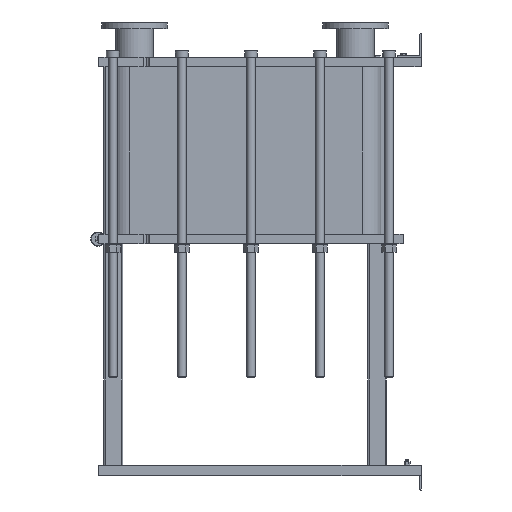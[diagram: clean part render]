
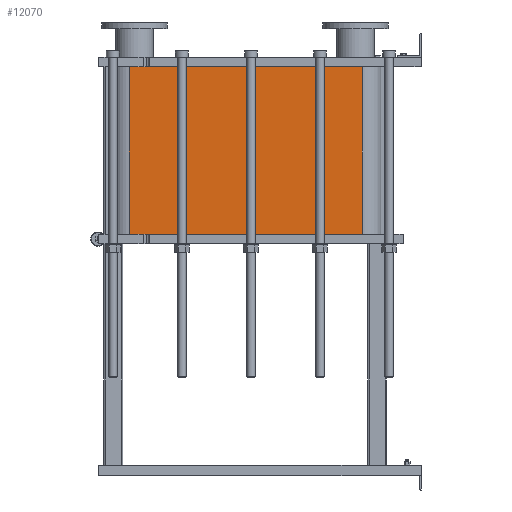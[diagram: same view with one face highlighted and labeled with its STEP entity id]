
A CAD part, left-side view. The second image highlights one B-rep face of the part: STEP entity #12070.
In plain terms, the highlighted planar face has unit normal (-1, 0, 0).
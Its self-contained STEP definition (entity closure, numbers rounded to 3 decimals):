
#1064=LINE('',#21140,#2164);
#1065=LINE('',#21144,#2165);
#1066=LINE('',#21146,#2166);
#1067=LINE('',#21147,#2167);
#2164=VECTOR('',#15790,10.);
#2165=VECTOR('',#15795,10.);
#2166=VECTOR('',#15796,10.);
#2167=VECTOR('',#15797,10.);
#3304=FACE_OUTER_BOUND('',#4091,.T.);
#4091=EDGE_LOOP('',(#9793,#9794,#9795,#9796));
#5677=VERTEX_POINT('',#21137);
#5678=VERTEX_POINT('',#21139);
#5679=VERTEX_POINT('',#21143);
#5680=VERTEX_POINT('',#21145);
#7118=EDGE_CURVE('',#5678,#5677,#1064,.T.);
#7120=EDGE_CURVE('',#5677,#5679,#1065,.T.);
#7121=EDGE_CURVE('',#5680,#5679,#1066,.T.);
#7122=EDGE_CURVE('',#5680,#5678,#1067,.T.);
#9793=ORIENTED_EDGE('',*,*,#7120,.T.);
#9794=ORIENTED_EDGE('',*,*,#7121,.F.);
#9795=ORIENTED_EDGE('',*,*,#7122,.T.);
#9796=ORIENTED_EDGE('',*,*,#7118,.T.);
#11441=PLANE('',#13191);
#12070=ADVANCED_FACE('',(#3304),#11441,.T.);
#13191=AXIS2_PLACEMENT_3D('',#21142,#15793,#15794);
#15790=DIRECTION('',(0.,0.,-1.));
#15793=DIRECTION('center_axis',(-1.,0.,0.));
#15794=DIRECTION('ref_axis',(0.,1.,0.));
#15795=DIRECTION('',(0.,-1.,0.));
#15796=DIRECTION('',(0.,0.,-1.));
#15797=DIRECTION('',(0.,1.,0.));
#21137=CARTESIAN_POINT('',(-248.152,1243.818,-714.15));
#21139=CARTESIAN_POINT('',(-248.152,1243.818,0.));
#21140=CARTESIAN_POINT('',(-248.152,1243.818,0.));
#21142=CARTESIAN_POINT('Origin',(-248.152,251.818,0.));
#21143=CARTESIAN_POINT('',(-248.152,251.818,-714.15));
#21144=CARTESIAN_POINT('',(-248.152,499.818,-714.15));
#21145=CARTESIAN_POINT('',(-248.152,251.818,0.));
#21146=CARTESIAN_POINT('',(-248.152,251.818,0.));
#21147=CARTESIAN_POINT('',(-248.152,251.818,0.));
